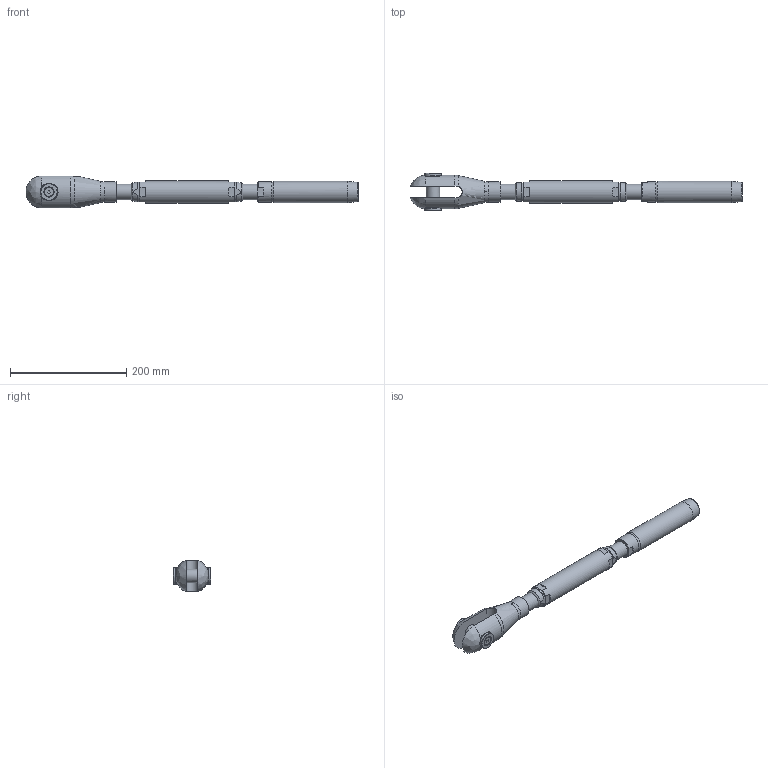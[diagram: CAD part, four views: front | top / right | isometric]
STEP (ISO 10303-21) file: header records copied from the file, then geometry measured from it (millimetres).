
FILE_DESCRIPTION(/* description */ (''),/* implementation_level */ '2;1');
FILE_NAME(/* name */ 'TBC 16_1,4462',/* time_stamp */ '2023-05-23T18:17:05+02:00',/* author */ (''),/* organization */ (''),/* preprocessor_version */ 'ST-DEVELOPER v16.5',/* originating_system */ 'Rhino 7.22',/* authorisation */ '');
FILE_SCHEMA (('CONFIG_CONTROL_DESIGN'));
Length unit declared in the file: millimetre
Products named in the file (1): Document
Bounding box: 572.17 x 64.34 x 54.44 mm (x, y, z)
Volume: 604808.1 mm3; surface area: 122964.7 mm2
Topology: 10 solids, 10 shells, 141 faces, 383 edges, 264 vertices
Faces by surface type: plane 65, bspline 41, cylinder 35
Full cylindrical faces by diameter (mm): 6.647 x2, 8 x2, 8.5 x2, 15.24 x2, 23 x1, 23.752 x4, 25 x2, 27 x2, 29 x2, 31 x1, 35 x2, 36.8 x1, 38 x1
Entity records: 5882 total; most frequent: CARTESIAN_POINT 3450, ORIENTED_EDGE 758, EDGE_CURVE 379, VERTEX_POINT 264, EDGE_LOOP 161, B_SPLINE_CURVE_WITH_KNOTS 158, ADVANCED_FACE 141, FACE_OUTER_BOUND 141
